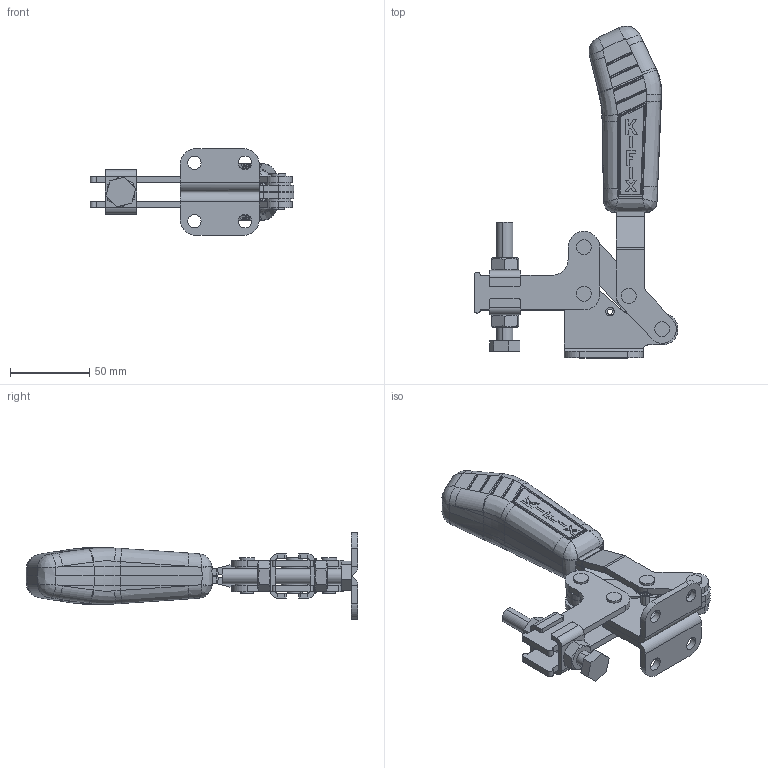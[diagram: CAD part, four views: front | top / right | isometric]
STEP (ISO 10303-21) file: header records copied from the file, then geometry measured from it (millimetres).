
FILE_DESCRIPTION (( 'STEP AP203' ), '1' );
FILE_NAME ('KF-631 D.STEP', '2014-08-01T14:36:16', ( 'Ricardo' ), ( '' ), 'SwSTEP 2.0', 'SolidWorks 2013', '' );
FILE_SCHEMA (( 'CONFIG_CONTROL_DESIGN' ));
Length unit declared in the file: millimetre
Products named in the file (14): KF-631 D; 01.10016_Esquerda; 17.50002; 12.50004; 11.50003; 02.12012_Direita; 14.10002; 02.12012_Esquerda; 06.50009; 03.13008; 07.60003; 08.10008; 16.50002; 01.10016_Direita
Assembly tree (27 placements, depth 2):
  KF-631 D
    02.12012_Direita
    02.12012_Esquerda
    03.13008  x2
    08.10008  x2
    01.10016_Direita
    01.10016_Esquerda
    17.50002  x8
    12.50004
    11.50003  x2
    14.10002  x2
    06.50009  x4
    07.60003
    16.50002
Bounding box: 129 x 209.96 x 55 mm (x, y, z)
Volume: 201612.4 mm3; surface area: 84504.4 mm2
Topology: 27 solids, 27 shells, 862 faces, 2090 edges, 1291 vertices
Faces by surface type: plane 295, cylinder 276, bspline 145, cone 95, sphere 48, torus 3
Entity records: 25050 total; most frequent: CARTESIAN_POINT 8821, ORIENTED_EDGE 3256, DIRECTION 2614, EDGE_CURVE 1628, VERTEX_POINT 1020, AXIS2_PLACEMENT_3D 1015, EDGE_LOOP 726, ADVANCED_FACE 657
